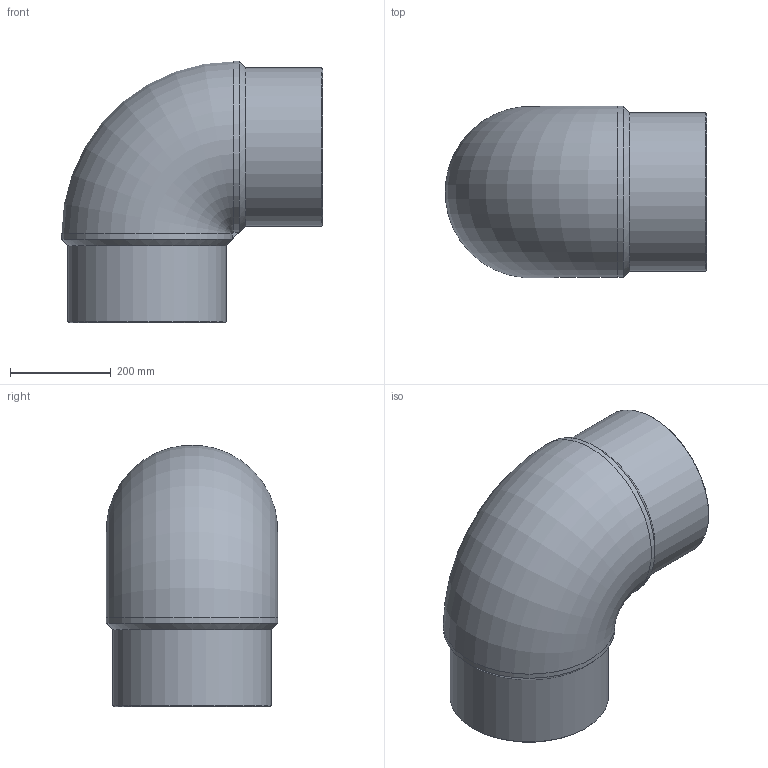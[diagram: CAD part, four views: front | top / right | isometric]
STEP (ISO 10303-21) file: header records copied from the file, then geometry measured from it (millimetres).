
FILE_DESCRIPTION(/* description */ ('Unknown'),/* implementation_level */ '2;1');
FILE_NAME(/* name */ 'G9P315C',/* time_stamp */ '2021-11-25T17:00:23+01:00',/* author */ ('Unknown'),/* organization */ ('Unknown'),/* preprocessor_version */ 'ST-DEVELOPER v16.7',/* originating_system */ 'Solid Edge',/* authorisation */ 'Unknown');
FILE_SCHEMA (('AUTOMOTIVE_DESIGN {1 0 10303 214 3 1 1}'));
Length unit declared in the file: millimetre
Products named in the file (1): G9P315C
Bounding box: 518.85 x 339.81 x 518.85 mm (x, y, z)
Volume: 20453687.8 mm3; surface area: 1210441.9 mm2
Topology: 1 solids, 1 shells, 16 faces, 43 edges, 29 vertices
Faces by surface type: cylinder 6, cone 4, plane 4, torus 2
Full cylindrical faces by diameter (mm): 257.8 x2, 315 x2
Entity records: 496 total; most frequent: CARTESIAN_POINT 119, DIRECTION 72, ORIENTED_EDGE 62, AXIS2_PLACEMENT_3D 34, EDGE_CURVE 31, EDGE_LOOP 26, FACE_BOUND 26, VERTEX_POINT 25
